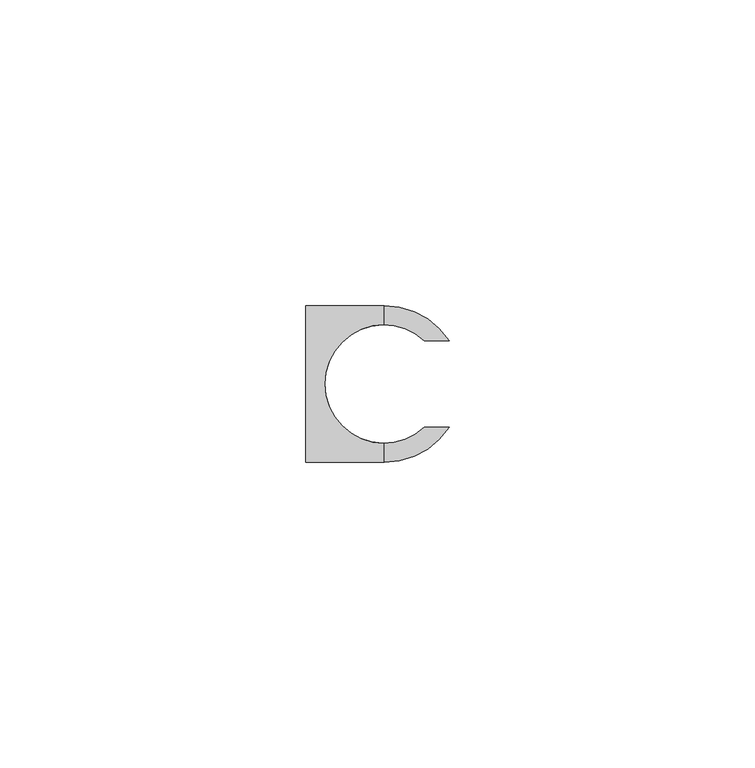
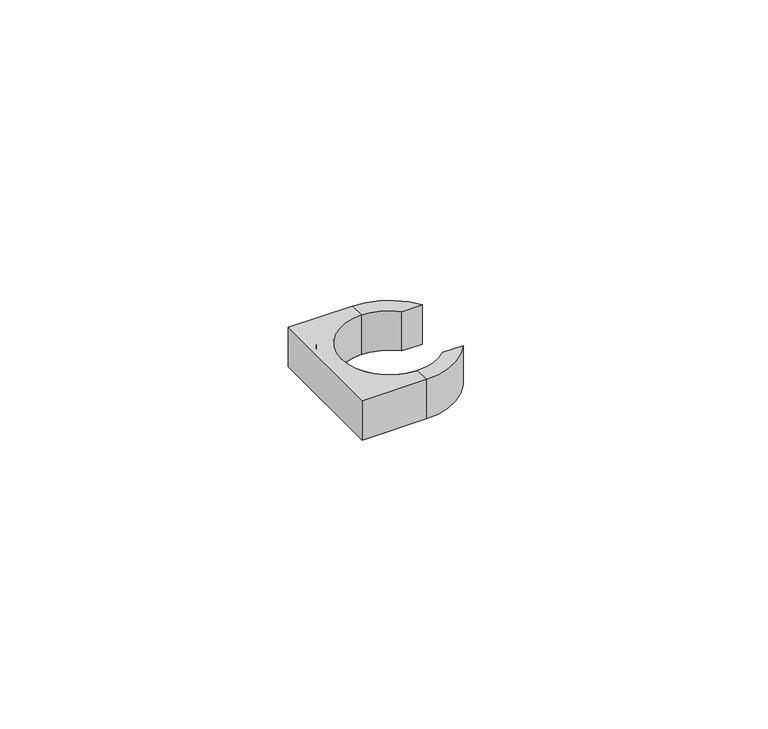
"""IFC4 building model written with IfcOpenShell, lengths in millimetres: valve geometry, EGB_VASEN_ PPR_Abrazadera simple WXR710 : Abrazadera simple WXR710."""

from ifc_helpers import new_model, si_unit, point, origin, origin_with_axes, origin_2d, place, context, project, spatial, polyline, circle_curve, trimmed, segment, composite_curve, outline, extrude, source, transform, mapped, element, save


def valve_d79aea4d(model_context):
    return source(origin(), model_context, "Body", "SweptSolid", [
        extrude(outline(composite_curve([segment(polyline([(0.0, -12.8), (-12.8, -12.8), (-12.8, 12.8), (0.0, 12.8), (0.0, 9.7)]), True, "CONTINUOUS"), segment(trimmed(circle_curve(origin_2d(), 9.7), [point((0.0, 9.7))], [point((-9.7, 0.0))], True, "CARTESIAN"), True, "CONTINUOUS"), segment(trimmed(circle_curve(origin_2d(), 9.7), [point((-9.7, 0.0))], [point((0.0, -9.7))], True, "CARTESIAN"), True, "CONTINUOUS"), segment(polyline([(0.0, -9.7), (0.0, -12.8)]), True, "CONTINUOUS")], self_intersect=False)), origin_with_axes(), (0.0, 0.0, 1.0), 8.35),
        extrude(outline(composite_curve([segment(trimmed(circle_curve(origin_2d(), 12.8), [point((-12.8, 0.0))], [point((10.6503521, 7.1))], False, "CARTESIAN"), True, "CONTINUOUS"), segment(polyline([(10.6503521, 7.1), (6.6090847, 7.1)]), True, "CONTINUOUS"), segment(trimmed(circle_curve(origin_2d(), 9.7), [point((6.6090847, 7.1))], [point((-9.7, 0.0))], True, "CARTESIAN"), True, "CONTINUOUS"), segment(trimmed(circle_curve(origin_2d(), 9.7), [point((-9.7, 0.0))], [point((6.6090847, -7.1))], True, "CARTESIAN"), True, "CONTINUOUS"), segment(polyline([(6.6090847, -7.1), (10.6503521, -7.1)]), True, "CONTINUOUS"), segment(trimmed(circle_curve(origin_2d(), 12.8), [point((10.6503521, -7.1))], [point((-12.8, 0.0))], False, "CARTESIAN"), True, "CONTINUOUS")], self_intersect=False)), origin_with_axes(), (0.0, 0.0, 1.0), 8.35),
    ])


if __name__ == "__main__":
    model = new_model("IFC4")
    model_context = context("Model", 3, world=origin())
    ifc_project = project(units=[si_unit("LENGTHUNIT", "METRE", prefix="MILLI")], contexts=[model_context])
    site = spatial("IfcSite", under=ifc_project)
    building = spatial("IfcBuilding", under=site)
    placement = place(None, origin())
    valve_shape = valve_d79aea4d(model_context)
    element("IfcValve", 1, ObjectType="EGB_VASEN_ PPR_Abrazadera simple WXR710 : Abrazadera simple WXR710", at=placement, inside=building, context=model_context, shape_type="MappedRepresentation", body=[
        mapped(valve_shape, transform((0.0, 0.0, 0.0), x_axis=(1.0, 0.0, 0.0), y_axis=(0.0, 1.0, 0.0), z_axis=(0.0, 0.0, 1.0))),
    ])
    save(model, "model.ifc")
